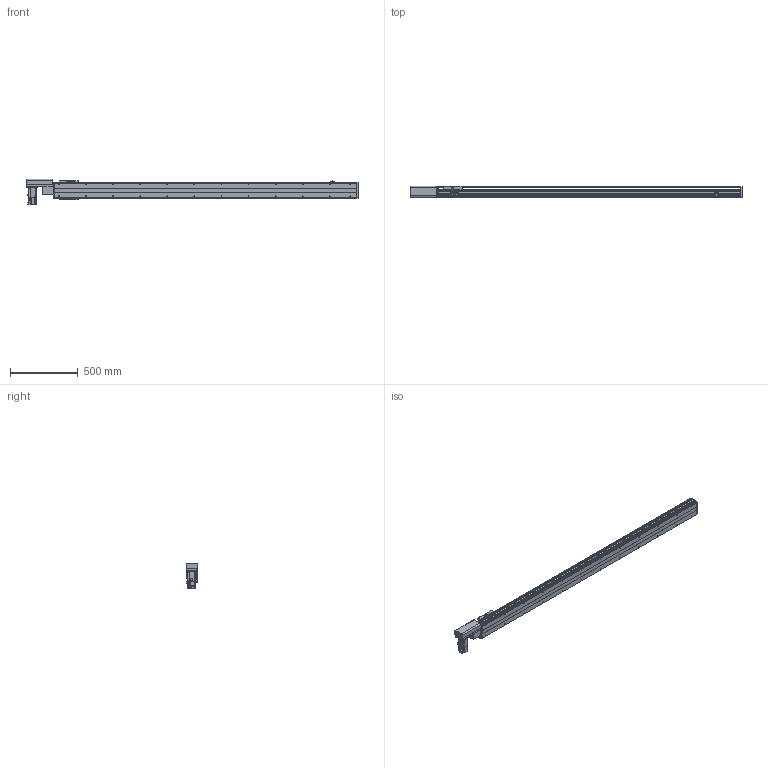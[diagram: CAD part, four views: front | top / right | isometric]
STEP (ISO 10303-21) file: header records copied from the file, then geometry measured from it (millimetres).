
FILE_DESCRIPTION( ( 'STEP AP214' ), '1' );
FILE_NAME( 'x:/temp/worker_27/temp/exporttempdir_6708_22_rwjPn/format_0/PBS120-P40-S1950-R-T40-C1-N(0).stp', '2022-06-06T00:09:08', ( 'License CC BY-ND 4.0' ), ( 'CADENAS' ), ' ', 'PARTsolutions', ' ' );
FILE_SCHEMA( ( 'AUTOMOTIVE_DESIGN { 1 0 10303 214 1 1 1 1 }' ) );
Length unit declared in the file: millimetre
Products named in the file (7): PBS120-P40-S1950-R-T40-C1-N(0); _PBS120-S1950()_body; _PBS120T-R_motors; _T40-p1; _PBS120_sliser; _PBS120_plant; _PBS120_sensor
Assembly tree (8 placements, depth 2):
  PBS120-P40-S1950-R-T40-C1-N(0)
    _PBS120-S1950()_body
    _PBS120T-R_motors
    _T40-p1
    _PBS120_sliser
    _PBS120_plant
    _PBS120_sensor  x3
Bounding box: 2451 x 83 x 189.7 mm (x, y, z)
Volume: 9053500.1 mm3; surface area: 1845993.2 mm2
Topology: 8 solids, 8 shells, 852 faces, 2196 edges, 1411 vertices
Faces by surface type: plane 557, cylinder 237, cone 56, torus 2
Full cylindrical faces by diameter (mm): 2.459 x6, 3.242 x4, 4 x2, 4.134 x4, 4.5 x10, 4.917 x28, 5.5 x11, 6 x2, 6.6 x1, 7 x2, 8.5 x4, 9 x4, 12 x1, 14 x1, 30 x2, 40 x1, 50 x2
Entity records: 27996 total; most frequent: DIRECTION 3836, CARTESIAN_POINT 3749, ORIENTED_EDGE 3550, EDGE_CURVE 1775, AXIS2_PLACEMENT_3D 1304, LINE 1228, VECTOR 1228, VERTEX_POINT 1217
